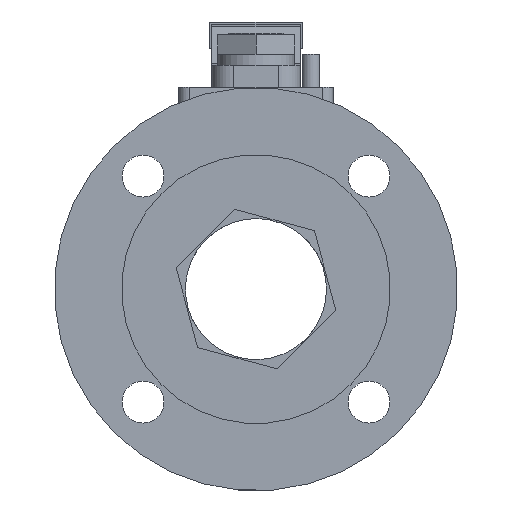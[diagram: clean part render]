
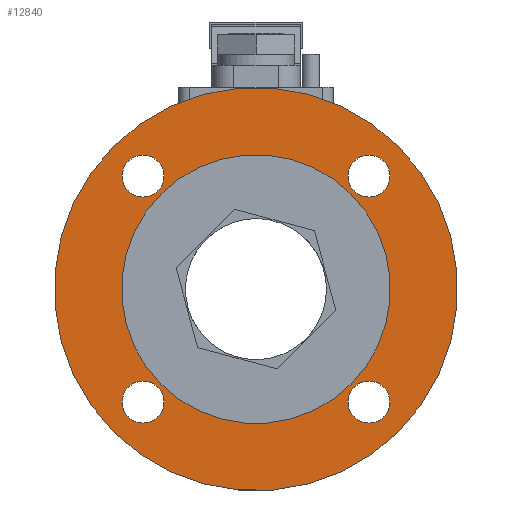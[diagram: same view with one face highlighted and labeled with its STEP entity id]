
A CAD part, left-side view. The second image highlights one B-rep face of the part: STEP entity #12840.
In plain terms, the highlighted planar face has unit normal (-1, 0, 0).
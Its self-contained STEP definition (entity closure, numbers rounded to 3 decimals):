
#12840=ADVANCED_FACE('',(#32807,#32809,#32811,#32813,#32815,#32817),#32819,.F.);
#32807=FACE_BOUND('',#32808,.T.);
#32808=EDGE_LOOP('',(#48826,#48827));
#32809=FACE_BOUND('',#32810,.T.);
#32810=EDGE_LOOP('',(#48828));
#32811=FACE_BOUND('',#32812,.T.);
#32812=EDGE_LOOP('',(#48829));
#32813=FACE_BOUND('',#32814,.T.);
#32814=EDGE_LOOP('',(#48830));
#32815=FACE_BOUND('',#32816,.T.);
#32816=EDGE_LOOP('',(#48831,#48832));
#32817=FACE_BOUND('',#32818,.T.);
#32818=EDGE_LOOP('',(#48833));
#32819=PLANE('',#32820);
#32820=AXIS2_PLACEMENT_3D('',#32821,#32822,#32823);
#32821=CARTESIAN_POINT('',(13556.796,4036.441,51.265));
#32822=DIRECTION('',(1.,0.,0.));
#32823=DIRECTION('',(0.,0.,-1.));
#48826=ORIENTED_EDGE('',*,*,#59450,.T.);
#48827=ORIENTED_EDGE('',*,*,#59451,.T.);
#48828=ORIENTED_EDGE('',*,*,#59304,.T.);
#48829=ORIENTED_EDGE('',*,*,#59308,.T.);
#48830=ORIENTED_EDGE('',*,*,#59312,.T.);
#48831=ORIENTED_EDGE('',*,*,#59444,.T.);
#48832=ORIENTED_EDGE('',*,*,#59445,.T.);
#48833=ORIENTED_EDGE('',*,*,#59300,.T.);
#59300=EDGE_CURVE('',#69208,#69208,#69209,.T.);
#59304=EDGE_CURVE('',#69216,#69216,#69217,.T.);
#59308=EDGE_CURVE('',#69224,#69224,#69225,.T.);
#59312=EDGE_CURVE('',#69232,#69232,#69233,.T.);
#59444=EDGE_CURVE('',#69454,#69455,#69456,.T.);
#59445=EDGE_CURVE('',#69455,#69454,#69457,.T.);
#59450=EDGE_CURVE('',#69466,#69467,#69468,.T.);
#59451=EDGE_CURVE('',#69467,#69466,#69469,.T.);
#69208=VERTEX_POINT('',#89205);
#69209=CIRCLE('',#89206,9.5);
#69216=VERTEX_POINT('',#89225);
#69217=CIRCLE('',#89226,9.5);
#69224=VERTEX_POINT('',#89245);
#69225=CIRCLE('',#89246,9.5);
#69232=VERTEX_POINT('',#89265);
#69233=CIRCLE('',#89266,9.5);
#69454=VERTEX_POINT('',#90367);
#69455=VERTEX_POINT('',#90368);
#69456=CIRCLE('',#90369,61.);
#69457=CIRCLE('',#90373,61.);
#69466=VERTEX_POINT('',#90397);
#69467=VERTEX_POINT('',#90398);
#69468=CIRCLE('',#90399,91.5);
#69469=CIRCLE('',#90403,91.5);
#89205=CARTESIAN_POINT('',(13556.796,4148.472,-51.265));
#89206=AXIS2_PLACEMENT_3D('',#89207,#89208,#89209);
#89207=CARTESIAN_POINT('',(13556.796,4138.972,-51.265));
#89208=DIRECTION('',(1.,0.,0.));
#89209=DIRECTION('',(0.,1.,0.));
#89225=CARTESIAN_POINT('',(13556.796,4045.941,51.265));
#89226=AXIS2_PLACEMENT_3D('',#89227,#89228,#89229);
#89227=CARTESIAN_POINT('',(13556.796,4036.441,51.265));
#89228=DIRECTION('',(1.,0.,0.));
#89229=DIRECTION('',(0.,1.,0.));
#89245=CARTESIAN_POINT('',(13556.796,4045.941,-51.265));
#89246=AXIS2_PLACEMENT_3D('',#89247,#89248,#89249);
#89247=CARTESIAN_POINT('',(13556.796,4036.441,-51.265));
#89248=DIRECTION('',(1.,0.,0.));
#89249=DIRECTION('',(0.,1.,0.));
#89265=CARTESIAN_POINT('',(13556.796,4148.472,51.265));
#89266=AXIS2_PLACEMENT_3D('',#89267,#89268,#89269);
#89267=CARTESIAN_POINT('',(13556.796,4138.972,51.265));
#89268=DIRECTION('',(1.,0.,0.));
#89269=DIRECTION('',(0.,1.,0.));
#90367=CARTESIAN_POINT('',(13556.796,4044.573,43.134));
#90368=CARTESIAN_POINT('',(13556.796,4130.84,-43.134));
#90369=AXIS2_PLACEMENT_3D('',#90370,#90371,#90372);
#90370=CARTESIAN_POINT('',(13556.796,4087.706,0.));
#90371=DIRECTION('',(1.,0.,0.));
#90372=DIRECTION('',(0.,-0.707,0.707));
#90373=AXIS2_PLACEMENT_3D('',#90374,#90375,#90376);
#90374=CARTESIAN_POINT('',(13556.796,4087.706,0.));
#90375=DIRECTION('',(1.,0.,0.));
#90376=DIRECTION('',(0.,0.707,-0.707));
#90397=CARTESIAN_POINT('',(13556.796,4023.006,64.7));
#90398=CARTESIAN_POINT('',(13556.796,4152.407,-64.7));
#90399=AXIS2_PLACEMENT_3D('',#90400,#90401,#90402);
#90400=CARTESIAN_POINT('',(13556.796,4087.706,0.));
#90401=DIRECTION('',(-1.,0.,0.));
#90402=DIRECTION('',(0.,-0.707,0.707));
#90403=AXIS2_PLACEMENT_3D('',#90404,#90405,#90406);
#90404=CARTESIAN_POINT('',(13556.796,4087.706,0.));
#90405=DIRECTION('',(-1.,0.,0.));
#90406=DIRECTION('',(0.,0.707,-0.707));
